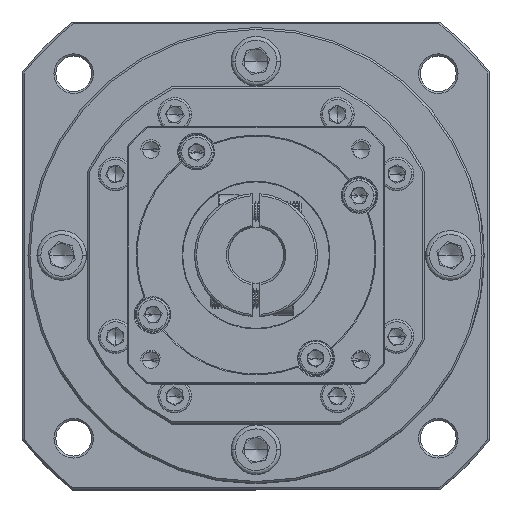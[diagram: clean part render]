
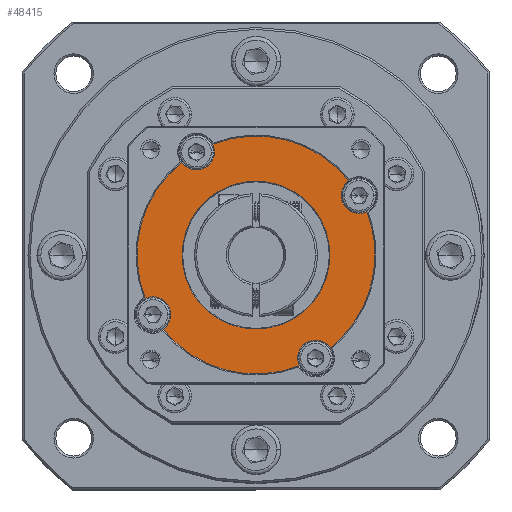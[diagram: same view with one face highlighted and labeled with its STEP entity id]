
A CAD part, top view. The second image highlights one B-rep face of the part: STEP entity #48415.
In plain terms, the highlighted planar face has unit normal (0, 0, 1).
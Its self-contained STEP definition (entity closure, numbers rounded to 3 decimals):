
#57 = CIRCLE ( 'NONE', #92558, 18.644 ) ;
#1117 = FACE_OUTER_BOUND ( 'NONE', #25272, .T. ) ;
#1354 = CIRCLE ( 'NONE', #67715, 4.5 ) ;
#1424 = DIRECTION ( 'NONE',  ( 0., 0., 1. ) ) ;
#1532 = CARTESIAN_POINT ( 'NONE',  ( -54.152, 7.17, 15.762 ) ) ;
#2366 = ORIENTED_EDGE ( 'NONE', *, *, #3907, .F. ) ;
#3730 = EDGE_CURVE ( 'NONE', #97163, #69898, #77469, .T. ) ;
#3907 = EDGE_CURVE ( 'NONE', #104566, #83553, #39164, .T. ) ;
#5605 = CARTESIAN_POINT ( 'NONE',  ( -64.652, 33.151, 15.762 ) ) ;
#6715 = DIRECTION ( 'NONE',  ( 0., 0., 1. ) ) ;
#7987 = EDGE_CURVE ( 'NONE', #104566, #15306, #66670, .T. ) ;
#8130 = CARTESIAN_POINT ( 'NONE',  ( -64.652, 33.151, 15.762 ) ) ;
#8762 = DIRECTION ( 'NONE',  ( 0., 0., 1. ) ) ;
#10062 = ORIENTED_EDGE ( 'NONE', *, *, #16255, .F. ) ;
#10952 = EDGE_CURVE ( 'NONE', #46840, #15306, #56702, .T. ) ;
#10954 = AXIS2_PLACEMENT_3D ( 'NONE', #5605, #66748, #14409 ) ;
#11118 = CARTESIAN_POINT ( 'NONE',  ( -90.633, 18.151, 15.762 ) ) ;
#11393 = CIRCLE ( 'NONE', #10954, 30. ) ;
#11535 = VERTEX_POINT ( 'NONE', #99546 ) ;
#12455 = CARTESIAN_POINT ( 'NONE',  ( -90.633, 18.151, 15.762 ) ) ;
#13406 = CARTESIAN_POINT ( 'NONE',  ( -64.652, 33.151, 15.762 ) ) ;
#14409 = DIRECTION ( 'NONE',  ( 1., 0., 0. ) ) ;
#14613 = AXIS2_PLACEMENT_3D ( 'NONE', #48702, #109814, #57380 ) ;
#15286 = CIRCLE ( 'NONE', #79958, 4.5 ) ;
#15306 = VERTEX_POINT ( 'NONE', #29243 ) ;
#16255 = EDGE_CURVE ( 'NONE', #110746, #105211, #72044, .T. ) ;
#16924 = DIRECTION ( 'NONE',  ( 1., 0., 0. ) ) ;
#17235 = VERTEX_POINT ( 'NONE', #31629 ) ;
#17257 = CARTESIAN_POINT ( 'NONE',  ( -79.652, 59.131, 15.762 ) ) ;
#19903 = DIRECTION ( 'NONE',  ( 1., 0., 0. ) ) ;
#21269 = DIRECTION ( 'NONE',  ( 1., 0., 0. ) ) ;
#21930 = ORIENTED_EDGE ( 'NONE', *, *, #3730, .F. ) ;
#22190 = DIRECTION ( 'NONE',  ( 1., 0., 0. ) ) ;
#23784 = EDGE_CURVE ( 'NONE', #60027, #105211, #44403, .T. ) ;
#25272 = EDGE_LOOP ( 'NONE', ( #2366, #68523, #28799, #103456, #26970, #112817, #10062, #54163, #26571, #21930, #57769, #91047, #77827 ) ) ;
#25429 = CARTESIAN_POINT ( 'NONE',  ( -41.207, 51.868, 15.762 ) ) ;
#26056 = DIRECTION ( 'NONE',  ( 1., 0., 0. ) ) ;
#26571 = ORIENTED_EDGE ( 'NONE', *, *, #68312, .T. ) ;
#26970 = ORIENTED_EDGE ( 'NONE', *, *, #85164, .T. ) ;
#28575 = EDGE_CURVE ( 'NONE', #109768, #110746, #1354, .T. ) ;
#28799 = ORIENTED_EDGE ( 'NONE', *, *, #10952, .F. ) ;
#29243 = CARTESIAN_POINT ( 'NONE',  ( -53.707, 5.219, 15.762 ) ) ;
#31120 = DIRECTION ( 'NONE',  ( 0., 0., 1. ) ) ;
#31629 = CARTESIAN_POINT ( 'NONE',  ( -92.584, 22.206, 15.762 ) ) ;
#35467 = CARTESIAN_POINT ( 'NONE',  ( -49.652, 7.17, 15.762 ) ) ;
#38047 = DIRECTION ( 'NONE',  ( 0., 0., 1. ) ) ;
#38217 = AXIS2_PLACEMENT_3D ( 'NONE', #8130, #69229, #16924 ) ;
#39164 = CIRCLE ( 'NONE', #67521, 4.5 ) ;
#42100 = CARTESIAN_POINT ( 'NONE',  ( -83.369, 56.595, 15.762 ) ) ;
#44267 = DIRECTION ( 'NONE',  ( 1., 0., 0. ) ) ;
#44403 = CIRCLE ( 'NONE', #94721, 30. ) ;
#44731 = CARTESIAN_POINT ( 'NONE',  ( -75.152, 59.131, 15.762 ) ) ;
#45112 = CIRCLE ( 'NONE', #68472, 4.5 ) ;
#45794 = DIRECTION ( 'NONE',  ( 0., 0., 1. ) ) ;
#46264 = DIRECTION ( 'NONE',  ( 0., 0., 1. ) ) ;
#46354 = CARTESIAN_POINT ( 'NONE',  ( -36.72, 44.096, 15.762 ) ) ;
#46840 = VERTEX_POINT ( 'NONE', #1532 ) ;
#47472 = ORIENTED_EDGE ( 'NONE', *, *, #106813, .T. ) ;
#47550 = DIRECTION ( 'NONE',  ( 0., 0., 1. ) ) ;
#48415 = ADVANCED_FACE ( 'NONE', ( #94067, #1117 ), #55183, .T. ) ;
#48702 = CARTESIAN_POINT ( 'NONE',  ( -38.671, 48.151, 15.762 ) ) ;
#53757 = CARTESIAN_POINT ( 'NONE',  ( -64.652, 33.151, 15.762 ) ) ;
#53858 = CARTESIAN_POINT ( 'NONE',  ( -88.097, 14.433, 15.762 ) ) ;
#54163 = ORIENTED_EDGE ( 'NONE', *, *, #28575, .F. ) ;
#54292 = VERTEX_POINT ( 'NONE', #112007 ) ;
#55183 = PLANE ( 'NONE',  #95265 ) ;
#56702 = CIRCLE ( 'NONE', #59911, 4.5 ) ;
#57380 = DIRECTION ( 'NONE',  ( 1., 0., 0. ) ) ;
#57769 = ORIENTED_EDGE ( 'NONE', *, *, #89858, .F. ) ;
#59006 = CARTESIAN_POINT ( 'NONE',  ( -79.652, 59.131, 15.762 ) ) ;
#59911 = AXIS2_PLACEMENT_3D ( 'NONE', #98576, #46264, #107389 ) ;
#60027 = VERTEX_POINT ( 'NONE', #94963 ) ;
#61078 = CARTESIAN_POINT ( 'NONE',  ( -86.133, 18.151, 15.762 ) ) ;
#61098 = CARTESIAN_POINT ( 'NONE',  ( -38.671, 48.151, 15.762 ) ) ;
#62545 = DIRECTION ( 'NONE',  ( 1., 0., 0. ) ) ;
#62582 = CIRCLE ( 'NONE', #81968, 4.5 ) ;
#66670 = CIRCLE ( 'NONE', #100355, 30. ) ;
#66748 = DIRECTION ( 'NONE',  ( 0., 0., 1. ) ) ;
#67521 = AXIS2_PLACEMENT_3D ( 'NONE', #11118, #72210, #19903 ) ;
#67715 = AXIS2_PLACEMENT_3D ( 'NONE', #61098, #8762, #69863 ) ;
#67851 = DIRECTION ( 'NONE',  ( 1., 0., 0. ) ) ;
#68312 = EDGE_CURVE ( 'NONE', #109768, #69898, #97941, .T. ) ;
#68472 = AXIS2_PLACEMENT_3D ( 'NONE', #59006, #6715, #67851 ) ;
#68523 = ORIENTED_EDGE ( 'NONE', *, *, #7987, .T. ) ;
#69229 = DIRECTION ( 'NONE',  ( 0., 0., -1. ) ) ;
#69863 = DIRECTION ( 'NONE',  ( 1., 0., 0. ) ) ;
#69898 = VERTEX_POINT ( 'NONE', #79484 ) ;
#72044 = CIRCLE ( 'NONE', #14613, 4.5 ) ;
#72210 = DIRECTION ( 'NONE',  ( 0., 0., 1. ) ) ;
#72496 = EDGE_CURVE ( 'NONE', #11535, #81222, #57, .T. ) ;
#73587 = DIRECTION ( 'NONE',  ( 0., 0., 1. ) ) ;
#74524 = DIRECTION ( 'NONE',  ( 0., 0., -1. ) ) ;
#74647 = EDGE_CURVE ( 'NONE', #86693, #17235, #11393, .T. ) ;
#75343 = CARTESIAN_POINT ( 'NONE',  ( -43.171, 48.151, 15.762 ) ) ;
#75394 = CARTESIAN_POINT ( 'NONE',  ( -46.008, 33.151, 15.762 ) ) ;
#76435 = CIRCLE ( 'NONE', #108174, 30. ) ;
#77469 = CIRCLE ( 'NONE', #81394, 4.5 ) ;
#77827 = ORIENTED_EDGE ( 'NONE', *, *, #111721, .F. ) ;
#78351 = DIRECTION ( 'NONE',  ( 0., 0., 1. ) ) ;
#78842 = AXIS2_PLACEMENT_3D ( 'NONE', #99842, #47550, #108652 ) ;
#79484 = CARTESIAN_POINT ( 'NONE',  ( -75.597, 61.083, 15.762 ) ) ;
#79958 = AXIS2_PLACEMENT_3D ( 'NONE', #35467, #96560, #44267 ) ;
#80414 = CIRCLE ( 'NONE', #38217, 18.644 ) ;
#81222 = VERTEX_POINT ( 'NONE', #75394 ) ;
#81394 = AXIS2_PLACEMENT_3D ( 'NONE', #17257, #78351, #26056 ) ;
#81968 = AXIS2_PLACEMENT_3D ( 'NONE', #12455, #73587, #21269 ) ;
#83400 = CARTESIAN_POINT ( 'NONE',  ( -64.652, 33.151, 15.762 ) ) ;
#83553 = VERTEX_POINT ( 'NONE', #61078 ) ;
#85164 = EDGE_CURVE ( 'NONE', #54292, #60027, #76435, .T. ) ;
#85413 = EDGE_LOOP ( 'NONE', ( #47472, #89576 ) ) ;
#86693 = VERTEX_POINT ( 'NONE', #42100 ) ;
#89576 = ORIENTED_EDGE ( 'NONE', *, *, #72496, .T. ) ;
#89858 = EDGE_CURVE ( 'NONE', #86693, #97163, #45112, .T. ) ;
#90337 = CARTESIAN_POINT ( 'NONE',  ( -64.652, 33.151, 15.762 ) ) ;
#91047 = ORIENTED_EDGE ( 'NONE', *, *, #74647, .T. ) ;
#92165 = DIRECTION ( 'NONE',  ( 1., 0., 0. ) ) ;
#92558 = AXIS2_PLACEMENT_3D ( 'NONE', #13406, #74524, #22190 ) ;
#94067 = FACE_BOUND ( 'NONE', #85413, .T. ) ;
#94721 = AXIS2_PLACEMENT_3D ( 'NONE', #53757, #1424, #62545 ) ;
#94963 = CARTESIAN_POINT ( 'NONE',  ( -34.652, 33.151, 15.762 ) ) ;
#95265 = AXIS2_PLACEMENT_3D ( 'NONE', #90337, #38047, #99135 ) ;
#96560 = DIRECTION ( 'NONE',  ( 0., 0., 1. ) ) ;
#97163 = VERTEX_POINT ( 'NONE', #44731 ) ;
#97941 = CIRCLE ( 'NONE', #78842, 30. ) ;
#98113 = CARTESIAN_POINT ( 'NONE',  ( -64.652, 33.151, 15.762 ) ) ;
#98576 = CARTESIAN_POINT ( 'NONE',  ( -49.652, 7.17, 15.762 ) ) ;
#99135 = DIRECTION ( 'NONE',  ( 1., 0., 0. ) ) ;
#99546 = CARTESIAN_POINT ( 'NONE',  ( -83.296, 33.151, 15.762 ) ) ;
#99842 = CARTESIAN_POINT ( 'NONE',  ( -64.652, 33.151, 15.762 ) ) ;
#100355 = AXIS2_PLACEMENT_3D ( 'NONE', #83400, #31120, #92165 ) ;
#102139 = EDGE_CURVE ( 'NONE', #54292, #46840, #15286, .T. ) ;
#103456 = ORIENTED_EDGE ( 'NONE', *, *, #102139, .F. ) ;
#104566 = VERTEX_POINT ( 'NONE', #53858 ) ;
#105211 = VERTEX_POINT ( 'NONE', #46354 ) ;
#106813 = EDGE_CURVE ( 'NONE', #81222, #11535, #80414, .T. ) ;
#106924 = DIRECTION ( 'NONE',  ( 1., 0., 0. ) ) ;
#107389 = DIRECTION ( 'NONE',  ( 1., 0., 0. ) ) ;
#108174 = AXIS2_PLACEMENT_3D ( 'NONE', #98113, #45794, #106924 ) ;
#108652 = DIRECTION ( 'NONE',  ( 1., 0., 0. ) ) ;
#109768 = VERTEX_POINT ( 'NONE', #25429 ) ;
#109814 = DIRECTION ( 'NONE',  ( 0., 0., 1. ) ) ;
#110746 = VERTEX_POINT ( 'NONE', #75343 ) ;
#111721 = EDGE_CURVE ( 'NONE', #83553, #17235, #62582, .T. ) ;
#112007 = CARTESIAN_POINT ( 'NONE',  ( -45.935, 9.706, 15.762 ) ) ;
#112817 = ORIENTED_EDGE ( 'NONE', *, *, #23784, .T. ) ;
